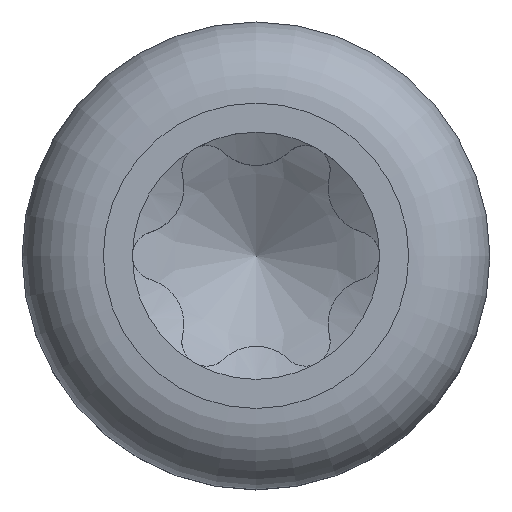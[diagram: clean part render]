
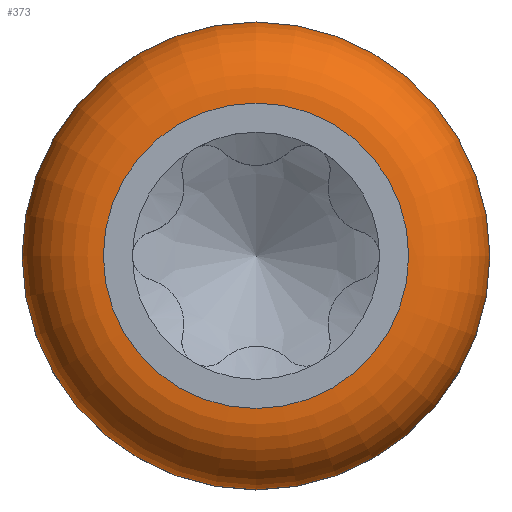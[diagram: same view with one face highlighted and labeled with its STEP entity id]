
A CAD part, top view. The second image highlights one B-rep face of the part: STEP entity #373.
In plain terms, the highlighted toroidal (fillet/blend) face has major radius 1.73 mm and minor radius 0.92 mm.
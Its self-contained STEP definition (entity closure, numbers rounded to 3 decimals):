
#333=TOROIDAL_SURFACE('',#1950,1.73,0.92);
#344=FACE_BOUND('',#635,.T.);
#345=FACE_BOUND('',#636,.T.);
#373=ADVANCED_FACE('',(#344,#345),#333,.T.);
#635=EDGE_LOOP('',(#845));
#636=EDGE_LOOP('',(#846));
#768=CIRCLE('',#1947,2.65);
#769=CIRCLE('',#1949,1.73);
#845=ORIENTED_EDGE('',*,*,#1557,.F.);
#846=ORIENTED_EDGE('',*,*,#1556,.T.);
#1389=VERTEX_POINT('',#4378);
#1390=VERTEX_POINT('',#4381);
#1556=EDGE_CURVE('',#1389,#1389,#768,.T.);
#1557=EDGE_CURVE('',#1390,#1390,#769,.T.);
#1947=AXIS2_PLACEMENT_3D('',#4377,#2018,#2019);
#1949=AXIS2_PLACEMENT_3D('',#4380,#2022,#2023);
#1950=AXIS2_PLACEMENT_3D('',#4382,#2024,#2025);
#2018=DIRECTION('',(0.,0.,1.));
#2019=DIRECTION('',(1.,0.,0.));
#2022=DIRECTION('',(0.,0.,1.));
#2023=DIRECTION('',(1.,0.,0.));
#2024=DIRECTION('',(0.,0.,1.));
#2025=DIRECTION('',(1.,0.,0.));
#4377=CARTESIAN_POINT('',(0.,0.,1.38));
#4378=CARTESIAN_POINT('',(2.65,0.,1.38));
#4380=CARTESIAN_POINT('',(0.,0.,2.3));
#4381=CARTESIAN_POINT('',(1.73,0.,2.3));
#4382=CARTESIAN_POINT('',(0.,0.,1.38));
